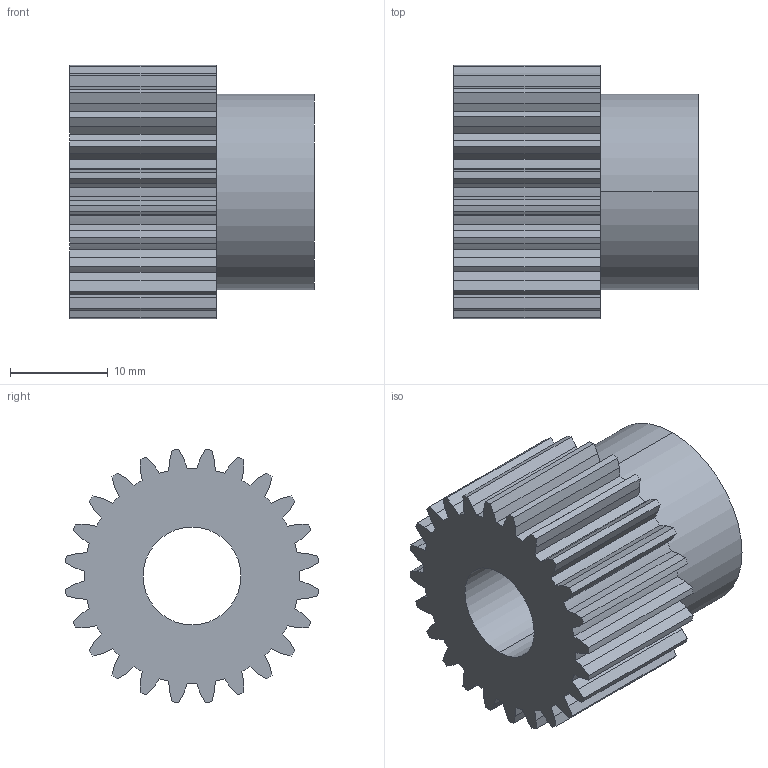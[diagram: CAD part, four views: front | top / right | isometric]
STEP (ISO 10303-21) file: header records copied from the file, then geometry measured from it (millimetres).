
FILE_DESCRIPTION (( 'STEP AP203' ), '1' );
FILE_NAME ('PM 26024.STEP', '2013-09-23T12:28:40', ( '' ), ( '' ), 'SwSTEP 2.0', 'SolidWorks 2010', '' );
FILE_SCHEMA (( 'CONFIG_CONTROL_DESIGN' ));
Length unit declared in the file: millimetre
Products named in the file (1): PM 26024
Bounding box: 25 x 25.86 x 25.86 mm (x, y, z)
Volume: 7873 mm3; surface area: 4274.2 mm2
Topology: 1 solids, 1 shells, 151 faces, 444 edges, 296 vertices
Faces by surface type: plane 99, cylinder 52
Entity records: 5105 total; most frequent: CARTESIAN_POINT 901, ORIENTED_EDGE 888, DIRECTION 848, EDGE_CURVE 444, VECTOR 338, LINE 338, VERTEX_POINT 296, AXIS2_PLACEMENT_3D 255
